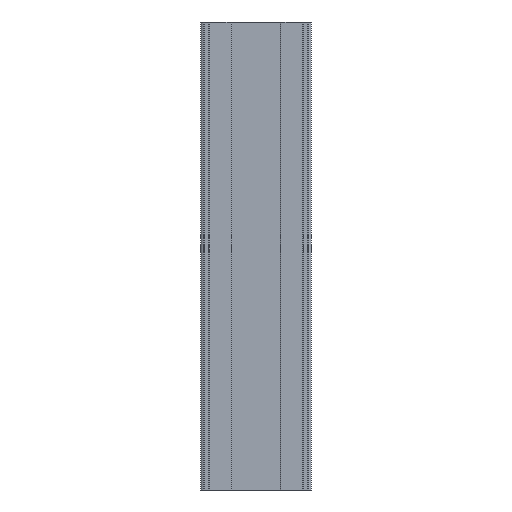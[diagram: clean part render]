
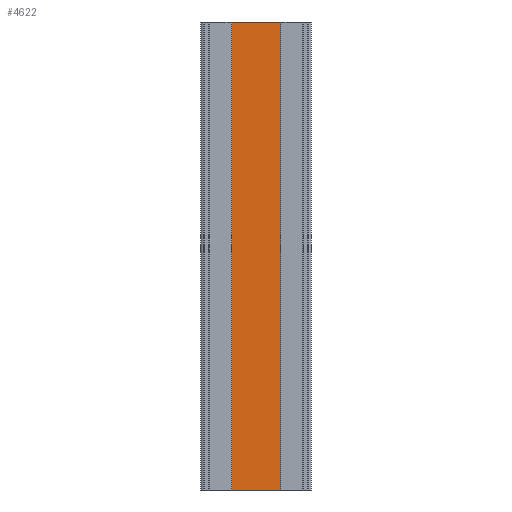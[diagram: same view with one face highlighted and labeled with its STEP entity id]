
A CAD part, front view. The second image highlights one B-rep face of the part: STEP entity #4622.
In plain terms, the highlighted planar face has unit normal (0, -1, 0).
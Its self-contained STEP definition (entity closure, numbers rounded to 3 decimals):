
#1 = VECTOR ( 'NONE', #4418, 1000. ) ;
#2 = LINE ( 'NONE', #4419, #1 ) ;
#3 = VECTOR ( 'NONE', #4420, 1000. ) ;
#5 = LINE ( 'NONE', #4421, #3 ) ;
#6 = VECTOR ( 'NONE', #4425, 1000. ) ;
#8 = LINE ( 'NONE', #4426, #6 ) ;
#254 = VERTEX_POINT ( 'NONE', #448 ) ;
#287 = VERTEX_POINT ( 'NONE', #297 ) ;
#297 = CARTESIAN_POINT ( 'NONE',  ( 53., -41., 0. ) ) ;
#448 = CARTESIAN_POINT ( 'NONE',  ( -53., -41., -500. ) ) ;
#512 = CARTESIAN_POINT ( 'NONE',  ( -53., -41., 0. ) ) ;
#662 = CARTESIAN_POINT ( 'NONE',  ( 53., -41., -500. ) ) ;
#679 = VERTEX_POINT ( 'NONE', #662 ) ;
#744 = VERTEX_POINT ( 'NONE', #512 ) ;
#1059 = ORIENTED_EDGE ( 'NONE', *, *, #4062, .F. ) ;
#1060 = ORIENTED_EDGE ( 'NONE', *, *, #4063, .F. ) ;
#1061 = ORIENTED_EDGE ( 'NONE', *, *, #4059, .T. ) ;
#1402 = ORIENTED_EDGE ( 'NONE', *, *, #4061, .T. ) ;
#1423 = EDGE_LOOP ( 'NONE', ( #1402, #1059, #1060, #1061 ) ) ;
#2236 = LINE ( 'NONE', #4417, #2238 ) ;
#2238 = VECTOR ( 'NONE', #4416, 1000. ) ;
#2705 = AXIS2_PLACEMENT_3D ( 'NONE', #3726, #3727, #3728 ) ;
#3066 = FACE_OUTER_BOUND ( 'NONE', #1423, .T. ) ;
#3725 = PLANE ( 'NONE',  #2705 ) ;
#3726 = CARTESIAN_POINT ( 'NONE',  ( -53., -41., -500. ) ) ;
#3727 = DIRECTION ( 'NONE',  ( 0., 1., 0. ) ) ;
#3728 = DIRECTION ( 'NONE',  ( 0., 0., 1. ) ) ;
#4059 = EDGE_CURVE ( 'NONE', #679, #287, #8, .T. ) ;
#4061 = EDGE_CURVE ( 'NONE', #287, #744, #5, .T. ) ;
#4062 = EDGE_CURVE ( 'NONE', #254, #744, #2, .T. ) ;
#4063 = EDGE_CURVE ( 'NONE', #679, #254, #2236, .T. ) ;
#4416 = DIRECTION ( 'NONE',  ( -1., 0., 0. ) ) ;
#4417 = CARTESIAN_POINT ( 'NONE',  ( -53., -41., -500. ) ) ;
#4418 = DIRECTION ( 'NONE',  ( 0., 0., 1. ) ) ;
#4419 = CARTESIAN_POINT ( 'NONE',  ( -53., -41., -500. ) ) ;
#4420 = DIRECTION ( 'NONE',  ( -1., 0., 0. ) ) ;
#4421 = CARTESIAN_POINT ( 'NONE',  ( -53., -41., 0. ) ) ;
#4425 = DIRECTION ( 'NONE',  ( 0., 0., 1. ) ) ;
#4426 = CARTESIAN_POINT ( 'NONE',  ( 53., -41., -500. ) ) ;
#4622 = ADVANCED_FACE ( 'NONE', ( #3066 ), #3725, .F. ) ;
